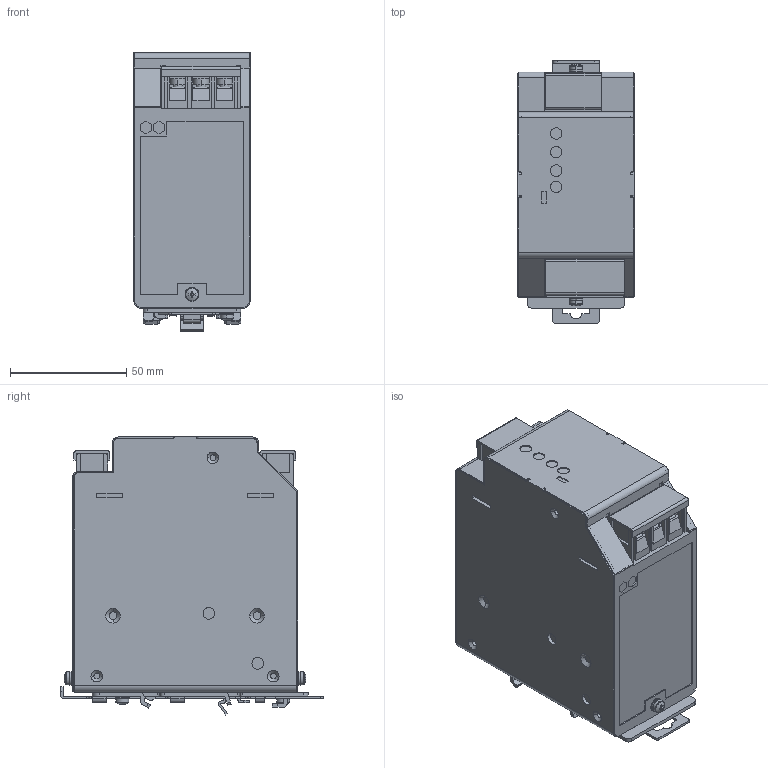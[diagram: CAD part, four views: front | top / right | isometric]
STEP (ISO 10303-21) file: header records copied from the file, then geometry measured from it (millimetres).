
FILE_DESCRIPTION (( 'STEP AP214' ), '1' );
FILE_NAME ('DLP75-24-1_OUTLINE.STEP', '2006-09-12T06:58:41', ( ' ' ), ( ' ' ), 'SwSTEP 2.0', 'SolidWorks 2006104', '' );
FILE_SCHEMA (( 'AUTOMOTIVE_DESIGN' ));
Length unit declared in the file: millimetre
Products named in the file (1): DLP75-24-1_OUTLINE
Bounding box: 50 x 113 x 119.78 mm (x, y, z)
Volume: 504569.7 mm3; surface area: 65138.8 mm2
Topology: 5 solids, 6 shells, 1280 faces, 3496 edges, 2208 vertices
Faces by surface type: plane 801, cylinder 348, cone 72, bspline 59
Entity records: 54905 total; most frequent: CARTESIAN_POINT 8392, ORIENTED_EDGE 6860, DIRECTION 6716, EDGE_CURVE 3430, VECTOR 2312, LINE 2312, VERTEX_POINT 2208, AXIS2_PLACEMENT_3D 2202
